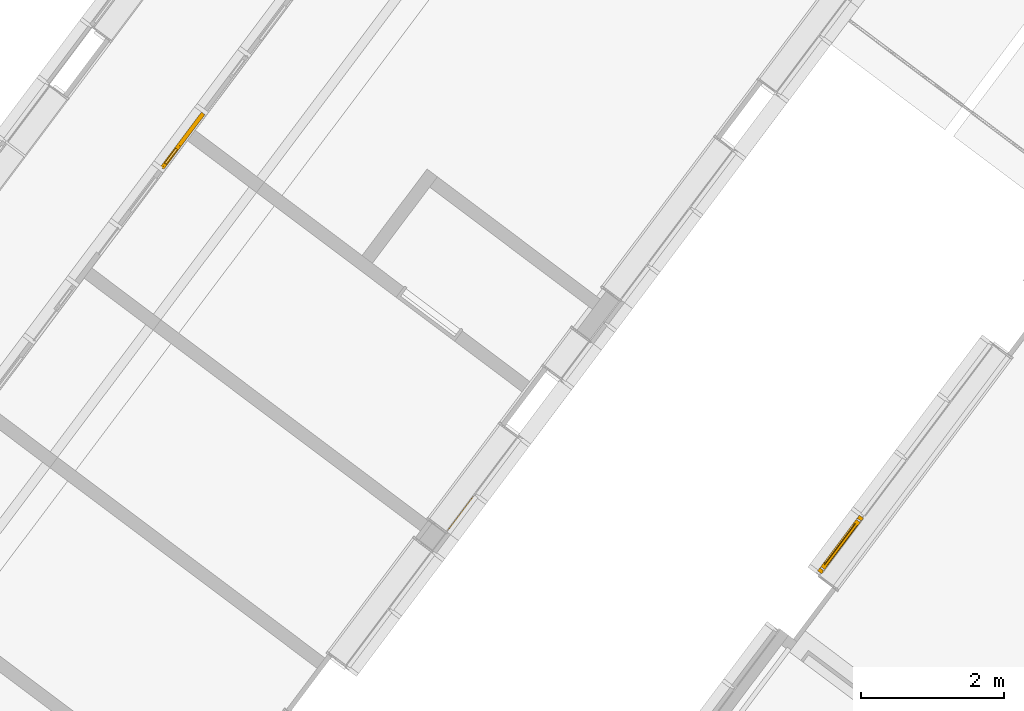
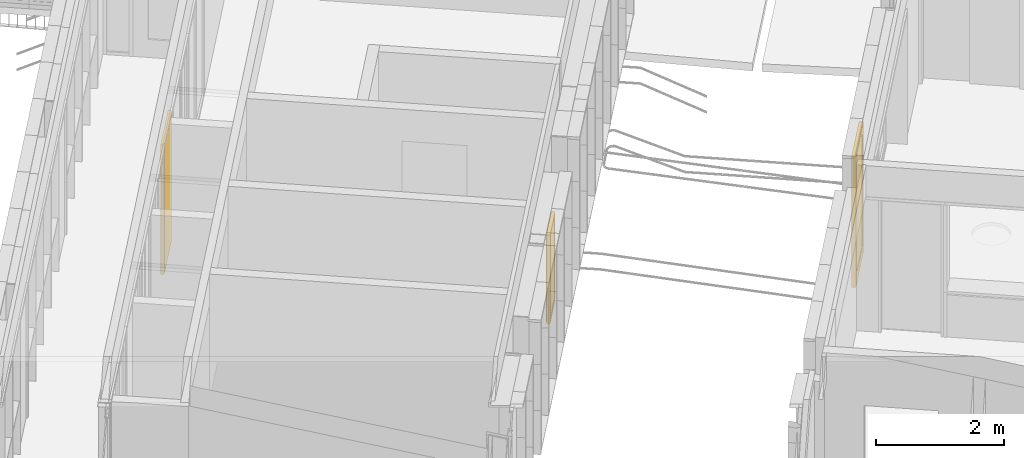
# One storey, part 226 of 243: 2 windows, 1 door, 3 elements without a shape of their own.
"""IFC2X3 building model written with IfcOpenShell, lengths in metres."""

from ifc_helpers import new_model, entity, si_unit, converted_unit, derived_unit, direction, frame, origin, place, context, subcontext, project, spatial, faceted_brep, source, transform, mapped, material, material_list, type_object, type_shapes, element, aggregate, save


model = new_model("IFC2X3")

# Units and contexts
model_context = context("Model", 3, precision=1e-05, world=origin(), true_north=direction((6.123031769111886e-17, 1.0)))
body_context = subcontext(model_context, "Body", "Model", "MODEL_VIEW")
ifc_project = project(units=[si_unit("LENGTHUNIT", "METRE"), si_unit("AREAUNIT", "SQUARE_METRE"), si_unit("VOLUMEUNIT", "CUBIC_METRE"), converted_unit("PLANEANGLEUNIT", "DEGREE", entity("IfcRatioMeasure", 0.017453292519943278), si_unit("PLANEANGLEUNIT", "RADIAN"), dimensions=[0, 0, 0, 0, 0, 0, 0]), si_unit("MASSUNIT", "GRAM", prefix="KILO"), derived_unit("MASSDENSITYUNIT", [(si_unit("MASSUNIT", "GRAM", prefix="KILO"), 1), (si_unit("LENGTHUNIT", "METRE"), -3)]), derived_unit("IONCONCENTRATIONUNIT", [(si_unit("MASSUNIT", "GRAM", prefix="KILO"), 1), (si_unit("LENGTHUNIT", "METRE"), -3)]), derived_unit("MOMENTOFINERTIAUNIT", [(si_unit("LENGTHUNIT", "METRE"), 4)]), si_unit("TIMEUNIT", "SECOND"), si_unit("FREQUENCYUNIT", "HERTZ"), si_unit("THERMODYNAMICTEMPERATUREUNIT", "DEGREE_CELSIUS"), derived_unit("THERMALTRANSMITTANCEUNIT", [(si_unit("MASSUNIT", "GRAM", prefix="KILO"), 1), (si_unit("THERMODYNAMICTEMPERATUREUNIT", "KELVIN"), -1), (si_unit("TIMEUNIT", "SECOND"), -3)]), derived_unit("THERMALCONDUCTANCEUNIT", [(si_unit("MASSUNIT", "GRAM", prefix="KILO"), 1), (si_unit("THERMODYNAMICTEMPERATUREUNIT", "KELVIN"), -1), (si_unit("TIMEUNIT", "SECOND"), -3), (si_unit("LENGTHUNIT", "METRE"), 1)]), derived_unit("VOLUMETRICFLOWRATEUNIT", [(si_unit("LENGTHUNIT", "METRE"), 3), (si_unit("TIMEUNIT", "SECOND"), -1)]), derived_unit("MASSFLOWRATEUNIT", [(si_unit("MASSUNIT", "GRAM", prefix="KILO"), 1), (si_unit("TIMEUNIT", "SECOND"), -1)]), derived_unit("ROTATIONALFREQUENCYUNIT", [(si_unit("TIMEUNIT", "SECOND"), -1)]), si_unit("ELECTRICCURRENTUNIT", "AMPERE"), si_unit("ELECTRICVOLTAGEUNIT", "VOLT"), si_unit("POWERUNIT", "WATT"), si_unit("FORCEUNIT", "NEWTON", prefix="KILO"), si_unit("ILLUMINANCEUNIT", "LUX"), si_unit("LUMINOUSFLUXUNIT", "LUMEN"), si_unit("LUMINOUSINTENSITYUNIT", "CANDELA"), derived_unit("USERDEFINED", [(si_unit("MASSUNIT", "GRAM", prefix="KILO"), -1), (si_unit("LENGTHUNIT", "METRE"), -2), (si_unit("TIMEUNIT", "SECOND"), 3), (si_unit("LUMINOUSFLUXUNIT", "LUMEN"), 1)]), derived_unit("USERDEFINED", [(si_unit("MASSUNIT", "GRAM", prefix="KILO"), 1), (si_unit("TIMEUNIT", "SECOND"), -3), (si_unit("LENGTHUNIT", "METRE"), 3), (si_unit("ELECTRICCURRENTUNIT", "AMPERE"), -2)]), derived_unit("SOUNDPOWERUNIT", [(si_unit("MASSUNIT", "GRAM", prefix="KILO"), 1), (si_unit("TIMEUNIT", "SECOND"), -3), (si_unit("LENGTHUNIT", "METRE"), 2)]), derived_unit("SOUNDPRESSUREUNIT", [(si_unit("MASSUNIT", "GRAM", prefix="KILO"), 1), (si_unit("LENGTHUNIT", "METRE"), -1), (si_unit("TIMEUNIT", "SECOND"), -2)]), derived_unit("LINEARVELOCITYUNIT", [(si_unit("LENGTHUNIT", "METRE"), 1), (si_unit("TIMEUNIT", "SECOND"), -1)]), si_unit("PRESSUREUNIT", "PASCAL"), derived_unit("USERDEFINED", [(si_unit("MASSUNIT", "GRAM", prefix="KILO"), 1), (si_unit("LENGTHUNIT", "METRE"), -2), (si_unit("TIMEUNIT", "SECOND"), -2)]), derived_unit("LINEARFORCEUNIT", [(si_unit("MASSUNIT", "GRAM", prefix="KILO"), 1), (si_unit("TIMEUNIT", "SECOND"), -2)]), derived_unit("PLANARFORCEUNIT", [(si_unit("MASSUNIT", "GRAM", prefix="KILO"), 1), (si_unit("LENGTHUNIT", "METRE"), -1), (si_unit("TIMEUNIT", "SECOND"), -2)]), derived_unit("SPECIFICHEATCAPACITYUNIT", [(si_unit("THERMODYNAMICTEMPERATUREUNIT", "KELVIN"), -1), (si_unit("LENGTHUNIT", "METRE"), 2), (si_unit("TIMEUNIT", "SECOND"), -2)]), derived_unit("HEATINGVALUEUNIT", [(si_unit("LENGTHUNIT", "METRE"), 2), (si_unit("TIMEUNIT", "SECOND"), -2)]), derived_unit("VAPORPERMEABILITYUNIT", [(si_unit("LENGTHUNIT", "METRE"), -1), (si_unit("TIMEUNIT", "SECOND"), 1)]), derived_unit("DYNAMICVISCOSITYUNIT", [(si_unit("MASSUNIT", "GRAM", prefix="KILO"), 1), (si_unit("TIMEUNIT", "SECOND"), -1), (si_unit("LENGTHUNIT", "METRE"), -1)]), derived_unit("THERMALEXPANSIONCOEFFICIENTUNIT", [(si_unit("THERMODYNAMICTEMPERATUREUNIT", "KELVIN"), -1)]), derived_unit("MODULUSOFELASTICITYUNIT", [(si_unit("MASSUNIT", "GRAM", prefix="KILO"), 1), (si_unit("LENGTHUNIT", "METRE"), -1), (si_unit("TIMEUNIT", "SECOND"), -2)]), derived_unit("ISOTHERMALMOISTURECAPACITYUNIT", [(si_unit("LENGTHUNIT", "METRE"), 3), (si_unit("MASSUNIT", "GRAM", prefix="KILO"), -1)]), derived_unit("MOISTUREDIFFUSIVITYUNIT", [(si_unit("TIMEUNIT", "SECOND"), -1), (si_unit("LENGTHUNIT", "METRE"), 2)])], contexts=[model_context])

# Site, building, storey
site_placement = place(None, frame((0.0, 0.0, 235.0), z_axis=(0.0, 0.0, 1.0), x_axis=(-0.7996477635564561, 0.6004693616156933, 0.0)))
site = spatial("IfcSite", under=ifc_project, at=site_placement, Name="Default", CompositionType="ELEMENT")
building_placement = place(site_placement, origin())
building = spatial("IfcBuilding", under=site, at=building_placement, CompositionType="ELEMENT")
storey_placement = place(building_placement, origin())
storey = spatial("IfcBuildingStorey", under=building, at=storey_placement, Name="P0- Escola", CompositionType="ELEMENT", Elevation=0.0)

# Curtain wall, window
curtain_wall_type_1 = type_object("IfcCurtainWallType", Name="Muro cortina:MC- INT- a2", PredefinedType="NOTDEFINED")
curtain_wall_1_placement = place(storey_placement, origin())
curtain_wall_1 = element("IfcCurtainWall", 1, at=curtain_wall_1_placement, inside=storey, type_object=curtain_wall_type_1, Name="Muro cortina:MC- INT- a2", ObjectType="Muro cortina:MC- INT- a2")
ifc_material_1 = material(Name="_Fusta massisa- T1-  REV- PAV")
window_style_1 = type_object("IfcWindowStyle", Name="MC- Fusta- Finestra ventilacio interior:MC- Fusta- Finestra ventilacio interior", ConstructionType="NOTDEFINED", OperationType="NOTDEFINED", ParameterTakesPrecedence=False, Sizeable=False, material=ifc_material_1)
shared_shape_1 = source(origin(), body_context, "Body", "Brep", [
    faceted_brep([(-0.40050000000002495, 0.025000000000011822, 2.382999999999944), (-0.4005000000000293, 0.025000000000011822, 1.0449999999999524), (-0.1395000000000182, 0.0250000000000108, 1.0449999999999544), (-0.13950000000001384, 0.02500000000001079, 2.382999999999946), (-0.13950000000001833, -0.004999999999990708, 1.0449999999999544), (-0.13950000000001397, -0.004999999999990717, 2.382999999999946), (-0.40050000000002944, -0.004999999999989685, 1.0449999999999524), (-0.400500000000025, -0.004999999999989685, 2.382999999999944), (-0.09450000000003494, 0.04000000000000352, 2.427999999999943), (-0.09450000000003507, 0.01000000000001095, 2.428000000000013), (-0.09450000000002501, 0.010000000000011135, 1.0), (-0.09450000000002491, 0.04000000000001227, 1.0), (-0.44550000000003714, 0.010000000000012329, 1.0), (-0.44550000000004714, 0.010000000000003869, 2.427999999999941), (-0.4455000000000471, 0.0400000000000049, 2.427999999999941), (-0.445500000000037, 0.04000000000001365, 1.0), (-0.07950000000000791, 0.009999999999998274, 0.9850000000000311), (-0.46050000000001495, 0.009999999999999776, 0.9850000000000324), (-0.46050000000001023, 0.010000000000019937, 2.4430000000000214), (-0.07950000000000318, 0.010000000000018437, 2.44300000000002), (-0.07950000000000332, -0.019999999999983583, 2.443000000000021), (-0.46050000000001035, -0.019999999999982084, 2.443000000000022), (-0.4605000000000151, -0.02000000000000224, 0.985000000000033), (-0.07950000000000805, -0.020000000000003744, 0.9850000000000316)], [[[0, 1, 2, 3]], [[3, 2, 4, 5]], [[5, 4, 6, 7]], [[1, 0, 7, 6]], [[8, 9, 10, 11]], [[12, 13, 14, 15]], [[13, 9, 8, 14]], [[8, 11, 15, 14]], [[0, 3, 5, 7]], [[2, 1, 6, 4]], [[11, 10, 12, 15]], [[9, 13, 12, 10], [16, 17, 18, 19]], [[20, 21, 22, 23]], [[20, 19, 18, 21]], [[16, 19, 20, 23]], [[18, 17, 22, 21]], [[16, 23, 22, 17]]], outer=[[True], [True], [True], [True], [True], [True], [True], [True], [True], [True], [True], [False, True], [True], [True], [True], [True], [True]]),
    faceted_brep([(0.4724999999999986, -0.019999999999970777, 2.4549999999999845), (-0.47250000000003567, -0.019999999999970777, 2.4549999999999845), (-0.4725000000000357, -0.020000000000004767, 0.004999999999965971), (0.47249999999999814, -0.020000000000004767, 0.004999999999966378), (-0.4625000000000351, -0.019999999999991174, 0.9850000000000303), (-0.46250000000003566, -0.01999999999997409, 2.444999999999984), (-0.07750000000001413, -0.019999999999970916, 2.444999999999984), (-0.0775000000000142, -0.019999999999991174, 0.9850000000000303), (-0.47250000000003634, -0.01599999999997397, 2.454999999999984), (-0.4725000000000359, -0.01600000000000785, 0.004999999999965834), (0.4724999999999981, -0.01600000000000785, 0.004999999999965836), (0.47249999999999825, -0.01599999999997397, 2.454999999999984), (-0.47750000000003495, -0.015999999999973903, 2.459999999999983), (-0.477500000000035, -0.016000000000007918, 0.0), (0.4774999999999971, -0.016000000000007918, 0.0), (0.47749999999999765, -0.015999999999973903, 2.459999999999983), (0.47249999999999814, 0.03600000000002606, 2.454999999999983), (-0.47250000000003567, 0.03600000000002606, 2.454999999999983), (-0.4725000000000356, 0.03599999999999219, 0.004999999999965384), (0.47249999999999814, 0.03599999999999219, 0.004999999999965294), (0.47749999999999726, 0.036000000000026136, 2.459999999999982), (0.47749999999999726, 0.03599999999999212, 0.0), (-0.4775000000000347, 0.03599999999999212, 0.0), (-0.4775000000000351, 0.036000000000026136, 2.4599999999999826), (-0.4725000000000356, 0.03999999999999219, 0.004999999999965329), (0.4724999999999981, 0.03999999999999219, 0.004999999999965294), (-0.4725000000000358, 0.040000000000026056, 2.4550000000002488), (0.472499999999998, 0.040000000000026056, 2.4549999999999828), (-0.0925000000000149, 0.04000000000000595, 1.0), (-0.0925000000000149, 0.04000000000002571, 2.4299999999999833), (-0.44750000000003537, 0.040000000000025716, 2.4299999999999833), (-0.44750000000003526, 0.04000000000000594, 1.0), (-0.44750000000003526, 0.01000000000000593, 1.0), (-0.44750000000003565, 0.010000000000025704, 2.4299999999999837), (-0.0925000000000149, 0.010000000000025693, 2.4299999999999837), (-0.09250000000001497, 0.010000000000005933, 1.0), (-0.4625000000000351, 0.010000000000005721, 0.9850000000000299), (-0.09250000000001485, 0.010000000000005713, 0.9850000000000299), (-0.07750000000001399, 0.010000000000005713, 0.9850000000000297), (-0.07750000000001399, 0.0100000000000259, 2.4449999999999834), (-0.0925000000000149, 0.0100000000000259, 2.4449999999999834), (-0.4625000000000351, 0.010000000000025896, 2.4449999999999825)], [[[0, 1, 2, 3], [4, 5, 6, 7]], [[8, 9, 2, 1]], [[3, 2, 9, 10]], [[10, 9, 8, 11], [12, 13, 14, 15]], [[16, 17, 18, 19], [20, 21, 22, 23]], [[19, 18, 24, 25]], [[25, 24, 26, 27], [28, 29, 30, 31]], [[32, 33, 34, 35], [36, 37, 38, 39, 40, 41]], [[28, 31, 32, 35]], [[35, 34, 29, 28]], [[33, 32, 31, 30]], [[5, 4, 36, 41]], [[7, 6, 39, 38]], [[38, 37, 36, 4, 7]], [[0, 3, 10, 11]], [[16, 19, 25, 27]], [[15, 14, 21, 20]], [[14, 13, 22, 21]], [[23, 22, 13, 12]], [[1, 0, 11, 8]], [[12, 15, 20, 23]], [[41, 40, 39, 6, 5]], [[30, 29, 34, 33]], [[17, 16, 27, 26]], [[26, 24, 18, 17]]], outer=[[True, False], [True], [True], [False, True], [False, True], [True], [True, False], [False, True], [True], [True], [True], [True], [True], [True], [True], [True], [True], [True], [True], [True], [True], [True], [True], [True], [True]]),
])
type_shapes(window_style_1, [shared_shape_1])
window_1_placement = place(curtain_wall_1_placement, frame((34.620147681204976, -29.90769175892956, 0.059999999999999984), z_axis=(0.0, 0.0, 1.0), x_axis=(0.0, -1.0, 0.0)))
window_1 = element("IfcWindow", 2, at=window_1_placement, type_object=window_style_1, material=ifc_material_1, Name="MC- Fusta- Finestra ventilacio interior:MC- Fusta- Finestra ventilacio interior", ObjectType="MC- Fusta- Finestra ventilacio interior:MC- Fusta- Finestra ventilacio interior", OverallHeight=2.4600000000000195, OverallWidth=0.9550000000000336, context=body_context, shape_type="MappedRepresentation", body=[
    mapped(shared_shape_1, transform((0.0, 0.0, 0.0), scale=1.0)),
])
aggregate(curtain_wall_1, [window_1])

curtain_wall_type_2 = type_object("IfcCurtainWallType", Name="Muro cortina:MC- EXT- MC2", PredefinedType="NOTDEFINED")
curtain_wall_2_placement = place(storey_placement, origin())
curtain_wall_2 = element("IfcCurtainWall", 3, at=curtain_wall_2_placement, inside=storey, type_object=curtain_wall_type_2, Name="Muro cortina:MC- EXT- MC2", ObjectType="Muro cortina:MC- EXT- MC2")
ifc_material_2 = material(Name="_Vidre")
ifc_material_3 = material(Name="_Alumini- T1- Perfil")
ifc_material_list_1 = material_list([ifc_material_2, ifc_material_3])
window_style_2 = type_object("IfcWindowStyle", Name="MC- Alu- Conjunt finestra basculant- 68x68 cm:MC- Alu- Conjunt finestra basculant- 68x68 cm", ConstructionType="NOTDEFINED", OperationType="NOTDEFINED", ParameterTakesPrecedence=False, Sizeable=False, material=ifc_material_list_1)
shared_shape_2 = source(origin(), body_context, "Body", "Brep", [
    faceted_brep([(0.2687450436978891, -0.035598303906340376, 0.051999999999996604), (-0.2687450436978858, -0.035598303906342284, 0.051999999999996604), (-0.26874504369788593, -0.011598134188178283, 0.051999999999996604), (0.268745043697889, -0.011598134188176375, 0.051999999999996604), (0.2687450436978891, -0.035598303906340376, 1.6315527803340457), (0.268745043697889, -0.011598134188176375, 1.6315527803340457), (-0.2687450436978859, -0.011598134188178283, 1.6315527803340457), (-0.2687450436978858, -0.035598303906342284, 1.6315527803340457)], [[[0, 1, 2, 3]], [[4, 0, 3, 5]], [[5, 3, 2, 6]], [[6, 2, 1, 7]], [[7, 1, 0, 4]], [[4, 5, 6, 7]]]),
    faceted_brep([(-0.25304422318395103, -0.009998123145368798, 1.615851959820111), (-0.2530442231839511, -0.009998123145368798, 0.06789804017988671), (-0.2530442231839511, -0.007998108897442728, 0.06789804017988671), (-0.2530442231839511, -0.007998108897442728, 1.6158519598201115), (-0.2819422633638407, -0.00799810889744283, 1.644750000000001), (0.28194226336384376, -0.007998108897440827, 1.644750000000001), (0.28194226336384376, -0.007998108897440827, 0.03899999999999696), (-0.2819422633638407, -0.00799810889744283, 0.03899999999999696), (0.25304422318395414, -0.00799810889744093, 1.6158519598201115), (0.25304422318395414, -0.00799810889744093, 0.06789804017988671), (0.25304422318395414, -0.009998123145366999, 0.06789804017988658), (0.2530442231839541, -0.009998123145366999, 1.615851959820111), (0.268745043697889, -0.009998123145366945, 1.6315527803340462), (-0.26874504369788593, -0.009998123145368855, 1.6315527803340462), (-0.26874504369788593, -0.009998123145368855, 0.05219721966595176), (0.268745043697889, -0.009998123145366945, 0.05219721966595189), (-0.26874504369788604, -0.04079986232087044, 1.6315527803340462), (-0.2687450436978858, -0.04079986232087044, 0.05219721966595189), (0.2687450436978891, -0.040799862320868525, 0.05219721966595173), (0.26874504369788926, -0.040799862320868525, 1.6315527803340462), (0.25304422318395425, -0.04079986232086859, 1.6158519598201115), (-0.25304422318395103, -0.04079986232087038, 1.6158519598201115), (-0.25304422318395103, -0.04079986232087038, 0.06789804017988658), (0.25304422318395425, -0.04079986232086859, 0.06789804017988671), (-0.2530442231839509, -0.06800005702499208, 1.6158519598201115), (-0.2530442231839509, -0.06800005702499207, 0.06789804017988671), (0.2530442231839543, -0.06800005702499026, 0.06789804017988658), (0.25304422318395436, -0.06800005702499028, 1.6158519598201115), (0.2994462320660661, -0.0680000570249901, 1.662253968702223), (-0.29944623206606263, -0.06800005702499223, 1.662253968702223), (-0.29944623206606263, -0.06800005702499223, 0.021496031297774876), (0.2994462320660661, -0.0680000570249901, 0.021496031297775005), (-0.29944623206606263, -0.06450003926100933, 1.662253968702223), (-0.29944623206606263, -0.06450003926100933, 0.021496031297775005), (0.2994462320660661, -0.06450003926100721, 0.021496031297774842), (0.2994462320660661, -0.0645000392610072, 1.662253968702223), (0.281942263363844, -0.06450003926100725, 1.644750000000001), (-0.28194226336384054, -0.06450003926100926, 1.644750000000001), (-0.28194226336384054, -0.06450003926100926, 0.03899999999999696), (0.281942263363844, -0.06450003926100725, 0.03899999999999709)], [[[0, 1, 2, 3]], [[4, 5, 6, 7], [8, 3, 2, 9]], [[1, 10, 9, 2]], [[0, 11, 10, 1], [12, 13, 14, 15]], [[16, 17, 14, 13]], [[17, 18, 15, 14]], [[16, 19, 18, 17], [20, 21, 22, 23]], [[24, 25, 22, 21]], [[25, 26, 23, 22]], [[24, 27, 26, 25], [28, 29, 30, 31]], [[32, 33, 30, 29]], [[33, 34, 31, 30]], [[32, 35, 34, 33], [36, 37, 38, 39]], [[4, 7, 38, 37]], [[7, 6, 39, 38]], [[10, 11, 8, 9]], [[18, 19, 12, 15]], [[26, 27, 20, 23]], [[34, 35, 28, 31]], [[6, 5, 36, 39]], [[11, 0, 3, 8]], [[19, 16, 13, 12]], [[27, 24, 21, 20]], [[35, 32, 29, 28]], [[5, 4, 37, 36]]], outer=[[True], [True, False], [True], [False, True], [True], [True], [True, False], [True], [True], [False, True], [True], [True], [True, False], [True], [True], [True], [True], [True], [True], [True], [True], [True], [True], [True], [True]]),
    faceted_brep([(0.25802651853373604, 0.0, 1.6209431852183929), (0.25802651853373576, 0.0, 0.06280681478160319), (0.25802651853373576, -0.0040000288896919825, 0.06280681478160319), (0.2580265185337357, -0.0040000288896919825, 1.6209431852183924), (-0.2580265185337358, -0.0040000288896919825, 1.6209431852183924), (-0.25802651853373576, -0.0040000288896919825, 0.06280681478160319), (0.29343313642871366, -0.0040000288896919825, 1.6563498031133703), (-0.29343313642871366, -0.0040000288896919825, 1.6563498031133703), (-0.29343313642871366, -0.0040000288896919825, 0.02740019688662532), (0.29343313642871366, -0.0040000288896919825, 0.027400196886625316), (-0.25802651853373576, 0.0, 0.06280681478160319), (-0.25802651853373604, 0.0, 1.6209431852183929), (-0.320833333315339, 0.0, 1.6837499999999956), (0.320833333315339, 0.0, 1.6837499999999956), (0.320833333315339, 0.0, 0.0), (-0.320833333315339, 0.0, 0.0), (0.320833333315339, -0.05999999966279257, 1.6837499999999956), (0.320833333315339, -0.05999999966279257, 0.0), (-0.320833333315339, -0.05999999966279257, 0.0), (-0.320833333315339, -0.05999999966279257, 1.6837499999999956), (-0.2934331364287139, -0.05999999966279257, 1.6563498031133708), (0.2934331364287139, -0.05999999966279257, 1.6563498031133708), (0.2934331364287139, -0.05999999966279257, 0.02740019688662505), (-0.2934331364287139, -0.05999999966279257, 0.027400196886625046)], [[[0, 1, 2, 3]], [[4, 3, 2, 5], [6, 7, 8, 9]], [[1, 10, 5, 2]], [[0, 11, 10, 1], [12, 13, 14, 15]], [[16, 17, 14, 13]], [[17, 18, 15, 14]], [[16, 19, 18, 17], [20, 21, 22, 23]], [[6, 9, 22, 21]], [[9, 8, 23, 22]], [[10, 11, 4, 5]], [[18, 19, 12, 15]], [[8, 7, 20, 23]], [[11, 0, 3, 4]], [[19, 16, 13, 12]], [[7, 6, 21, 20]]], outer=[[True], [False, True], [True], [False, True], [True], [True], [True, False], [True], [True], [True], [True], [True], [True], [True], [True]]),
])
type_shapes(window_style_2, [shared_shape_2])
window_2_placement = place(curtain_wall_2_placement, frame((28.34514768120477, -28.07935842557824, 0.8200000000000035), z_axis=(0.0, 0.0, 1.0), x_axis=(0.0, 1.0, 0.0)))
window_2 = element("IfcWindow", 4, at=window_2_placement, type_object=window_style_2, material=ifc_material_list_1, Name="MC- Alu- Conjunt finestra basculant- 68x68 cm:MC- Alu- Conjunt finestra basculant- 68x68 cm", ObjectType="MC- Alu- Conjunt finestra basculant- 68x68 cm:MC- Alu- Conjunt finestra basculant- 68x68 cm", OverallHeight=1.6837499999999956, OverallWidth=0.641666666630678, context=body_context, shape_type="MappedRepresentation", body=[
    mapped(shared_shape_2, transform((0.0, 0.0, 0.0), scale=1.0)),
])
aggregate(curtain_wall_2, [window_2])

# Curtain wall, door
curtain_wall_3_placement = place(storey_placement, origin())
curtain_wall_3 = element("IfcCurtainWall", 5, at=curtain_wall_3_placement, inside=storey, type_object=curtain_wall_type_2, Name="Muro cortina:MC- EXT- MC2", ObjectType="Muro cortina:MC- EXT- MC2")
ifc_material_list_2 = material_list([ifc_material_3, ifc_material_2])
door_style = type_object("IfcDoorStyle", Name="MC- Alu- Conjunt porta- 70x60 cm- +15cm- obertura int:MC- Alu- Conjunt porta- 70x60 cm- +15cm- obertura int", ConstructionType="NOTDEFINED", OperationType="NOTDEFINED", ParameterTakesPrecedence=False, Sizeable=False, material=ifc_material_list_2)
shared_shape_3 = source(origin(), body_context, "Body", "Brep", [
    faceted_brep([(-0.4116999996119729, 0.0, 0.024000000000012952), (0.4116999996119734, 0.0, 0.024000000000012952), (0.4116999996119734, -0.06569970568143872, 0.024000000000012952), (-0.41169999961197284, -0.0656997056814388, 0.024000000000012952), (-0.4116999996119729, -0.0656997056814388, 2.410449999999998), (-0.4116999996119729, 0.0, 2.410449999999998), (0.41169999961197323, -0.06569970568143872, 2.410449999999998), (0.4356999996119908, -0.06569970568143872, 0.0), (-0.435699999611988, -0.06569970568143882, 0.0), (-0.4356999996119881, -0.06569970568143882, 2.4344500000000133), (0.4356999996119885, -0.06569970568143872, 2.4344500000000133), (0.4116999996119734, 0.0, 2.410449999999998), (-0.3350999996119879, 0.0, 2.333850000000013), (-0.33509999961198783, 0.0, 0.20400000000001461), (0.3350999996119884, 0.0, 0.20400000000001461), (0.3350999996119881, 0.0, 2.333850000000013), (0.4356999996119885, -0.0699997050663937, 2.4344500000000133), (0.4356999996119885, -0.0699997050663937, 0.0), (-0.435699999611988, -0.06999970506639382, 0.0), (-0.4356999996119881, -0.06999970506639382, 2.4344500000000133), (0.3350999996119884, -0.06999970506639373, 2.3338500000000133), (0.3350999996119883, -0.06999970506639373, 0.20400000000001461), (-0.33509999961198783, -0.06999970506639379, 0.20400000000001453), (-0.3350999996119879, -0.06999970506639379, 2.333850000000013), (0.3350999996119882, -0.06449970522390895, 2.333850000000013), (0.3350999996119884, -0.06449970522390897, 0.20400000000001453), (-0.33509999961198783, -0.06449970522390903, 0.20400000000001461), (-0.3350999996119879, -0.06449970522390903, 2.333850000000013), (0.3601000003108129, -0.06449970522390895, 2.3588500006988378), (0.3601000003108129, -0.06449970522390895, 0.17899999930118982), (-0.3601000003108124, -0.06449970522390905, 0.17899999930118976), (-0.3601000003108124, -0.06449970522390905, 2.3588500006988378), (0.3601000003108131, -0.01899970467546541, 2.3588500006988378), (0.3601000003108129, -0.01899970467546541, 0.17899999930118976), (-0.3601000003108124, -0.018999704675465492, 0.17899999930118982), (-0.3601000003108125, -0.01899970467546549, 2.3588500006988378), (0.3350999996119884, -0.018999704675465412, 2.3338500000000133), (0.33509999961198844, -0.018999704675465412, 0.20400000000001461), (-0.33509999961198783, -0.018999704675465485, 0.20400000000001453), (-0.3350999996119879, -0.018999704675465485, 2.333850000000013)], [[[0, 1, 2, 3]], [[4, 5, 0, 3]], [[2, 6, 4, 3], [7, 8, 9, 10]], [[2, 1, 11, 6]], [[11, 1, 0, 5], [12, 13, 14, 15]], [[16, 17, 7, 10]], [[8, 7, 17, 18]], [[18, 17, 16, 19], [20, 21, 22, 23]], [[24, 25, 21, 20]], [[21, 25, 26, 22]], [[27, 26, 25, 24], [28, 29, 30, 31]], [[32, 33, 29, 28]], [[33, 34, 30, 29]], [[35, 34, 33, 32], [36, 37, 38, 39]], [[15, 14, 37, 36]], [[37, 14, 13, 38]], [[9, 8, 18, 19]], [[23, 22, 26, 27]], [[31, 30, 34, 35]], [[39, 38, 13, 12]], [[19, 16, 10, 9]], [[27, 24, 20, 23]], [[35, 32, 28, 31]], [[12, 15, 36, 39]], [[4, 6, 11, 5]]], outer=[[True], [True], [False, True], [True], [True, False], [True], [True], [True, False], [True], [True], [False, True], [True], [True], [True, False], [True], [True], [True], [True], [True], [True], [True], [True], [True], [True], [True]]),
    faceted_brep([(0.3601000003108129, -0.06089980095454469, 0.17899999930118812), (-0.36010000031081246, -0.06089980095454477, 0.17899999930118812), (-0.3601000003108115, -0.028899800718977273, 0.17899999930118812), (0.3601000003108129, -0.02889980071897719, 0.17899999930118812), (0.3601000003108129, -0.060899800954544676, 2.3588500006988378), (0.3601000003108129, -0.02889980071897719, 2.3588500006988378), (-0.3601000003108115, -0.028899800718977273, 2.3588500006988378), (-0.36010000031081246, -0.06089980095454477, 2.3588500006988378)], [[[0, 1, 2, 3]], [[4, 0, 3, 5]], [[5, 3, 2, 6]], [[6, 2, 1, 7]], [[7, 1, 0, 4]], [[4, 5, 6, 7]]]),
    faceted_brep([(-0.4849999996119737, -0.06999999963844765, 0.0), (-0.4849999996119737, 0.0, 0.0), (-0.41769999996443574, 0.0, 0.0), (-0.41769999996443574, -0.008800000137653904, 0.0), (-0.43319996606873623, -0.008800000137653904, 0.0), (-0.43319996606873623, -0.059699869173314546, 0.0), (-0.4436999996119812, -0.059699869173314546, 0.0), (-0.4436999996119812, -0.06999999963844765, 0.0), (-0.4436999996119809, -0.06999999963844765, 2.442450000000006), (0.4436999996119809, -0.06999999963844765, 2.442450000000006), (0.4436999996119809, -0.06999999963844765, 0.0), (0.4849999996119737, -0.06999999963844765, 0.0), (0.4849999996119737, -0.06999999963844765, 2.4837499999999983), (-0.48499999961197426, -0.06999999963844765, 2.4837499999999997), (-0.4436999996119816, -0.059699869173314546, 2.442450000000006), (-0.43319996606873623, -0.059699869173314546, 2.4319499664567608), (0.43319996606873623, -0.059699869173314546, 2.4319499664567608), (0.43319996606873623, -0.059699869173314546, 0.0), (0.4436999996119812, -0.059699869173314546, 0.0), (0.4436999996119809, -0.059699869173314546, 2.442450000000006), (-0.4331999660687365, -0.008800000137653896, 2.4319499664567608), (-0.41769999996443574, -0.008800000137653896, 2.4164500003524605), (0.41769999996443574, -0.008800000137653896, 2.4164500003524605), (0.41769999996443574, -0.008800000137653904, 0.0), (0.43319996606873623, -0.008800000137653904, 0.0), (0.43319996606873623, -0.008800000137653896, 2.4319499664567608), (-0.41769999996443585, 0.0, 2.4164500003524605), (-0.4849999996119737, 0.0, 2.4837499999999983), (0.4849999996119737, 0.0, 2.4837499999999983), (0.4849999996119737, 0.0, 0.0), (0.41769999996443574, 0.0, 0.0), (0.41769999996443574, 0.0, 2.4164500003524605)], [[[0, 1, 2, 3, 4, 5, 6, 7]], [[7, 8, 9, 10, 11, 12, 13, 0]], [[6, 14, 8, 7]], [[5, 15, 16, 17, 18, 19, 14, 6]], [[4, 20, 15, 5]], [[3, 21, 22, 23, 24, 25, 20, 4]], [[2, 26, 21, 3]], [[1, 27, 28, 29, 30, 31, 26, 2]], [[0, 13, 27, 1]], [[11, 10, 18, 17, 24, 23, 30, 29]], [[12, 11, 29, 28]], [[31, 30, 23, 22]], [[25, 24, 17, 16]], [[19, 18, 10, 9]], [[14, 19, 9, 8]], [[20, 25, 16, 15]], [[26, 31, 22, 21]], [[13, 12, 28, 27]]]),
])
type_shapes(door_style, [shared_shape_3])
door_placement = place(curtain_wall_3_placement, frame((23.94514768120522, -30.915191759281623, 0.020000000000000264), z_axis=(0.0, 0.0, 1.0), x_axis=(0.0, -1.0, 0.0)))
door = element("IfcDoor", 6, at=door_placement, type_object=door_style, material=ifc_material_list_2, Name="MC- Alu- Conjunt porta- 70x60 cm- +15cm- obertura int:MC- Alu- Conjunt porta- 70x60 cm- +15cm- obertura int", ObjectType="MC- Alu- Conjunt porta- 70x60 cm- +15cm- obertura int:MC- Alu- Conjunt porta- 70x60 cm- +15cm- obertura int", OverallHeight=2.483750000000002, OverallWidth=0.9699999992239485, context=body_context, shape_type="MappedRepresentation", body=[
    mapped(shared_shape_3, transform((0.0, 0.0, 0.0), scale=1.0)),
])
aggregate(curtain_wall_3, [door])

save(model, "model.ifc")
